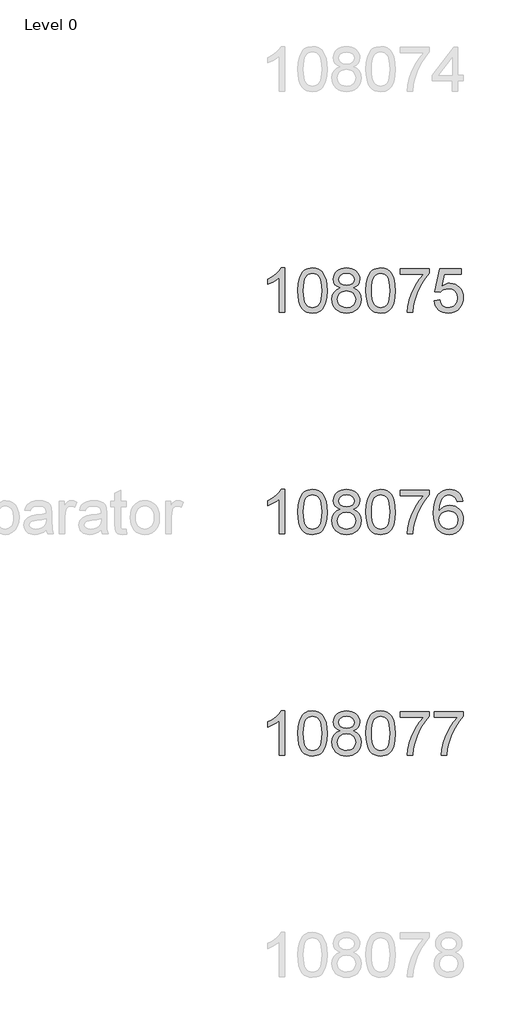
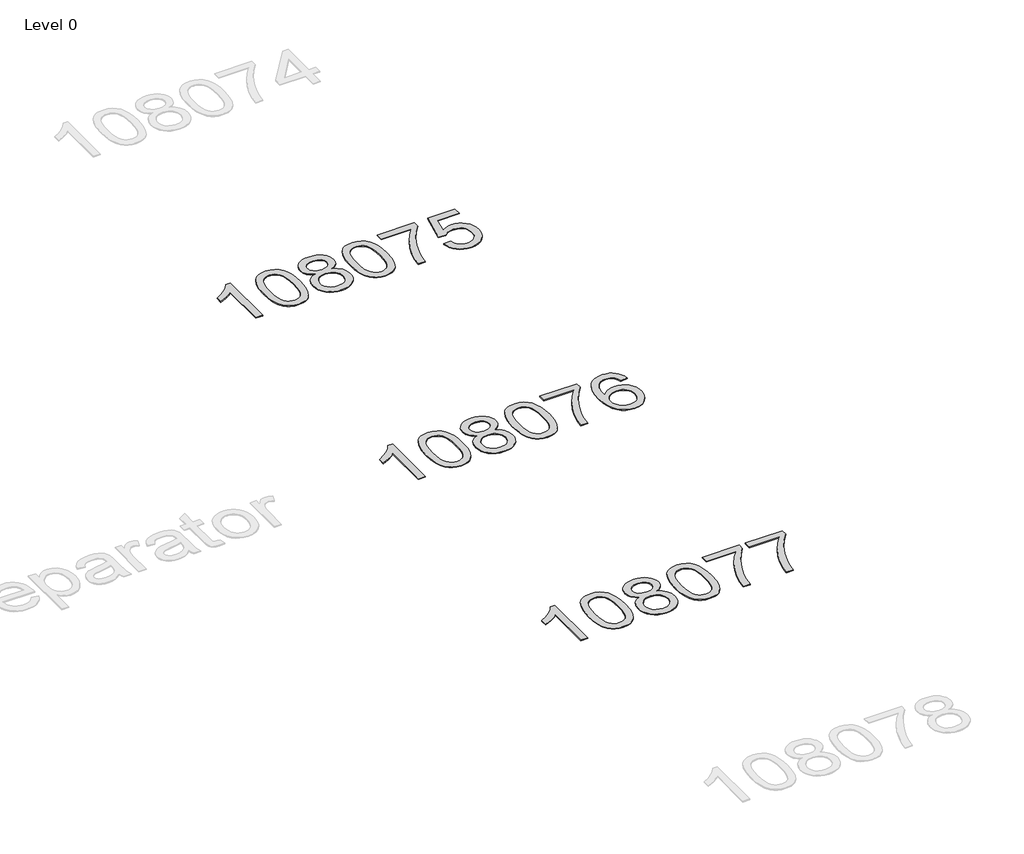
# One storey, part 3 of 8: 3 proxies.
"""IFC4 building model written with IfcOpenShell, lengths in millimetres."""

from ifc_helpers import new_model, si_unit, origin, origin_with_axes, place, context, project, spatial, polyline, outline, extrude, element, save

model = new_model("IFC4")

# Units and contexts
model_context = context("Model", 3, world=origin())
ifc_project = project(units=[si_unit("LENGTHUNIT", "METRE", prefix="MILLI")], contexts=[model_context])

# Site, building, storey
site = spatial("IfcSite", under=ifc_project)
building = spatial("IfcBuilding", under=site)
storey = spatial("IfcBuildingStorey", under=building, Name="Level 0", Elevation=0.0)

# Proxies
placement = place(None, origin())
element("IfcBuildingElementProxy", 1, Name="400mm Arial", ObjectType="400mm Arial", at=placement, inside=storey, context=model_context, shape_type="SweptSolid", body=[
    extrude(outline(polyline([(-3629.592891, 2149.0232018), (-3679.821046, 2149.0232018), (-3679.821046, 2462.1643561), (-3700.7903198, 2445.2049961), (-3727.4004508, 2428.2701616), (-3780.2773562, 2402.9108294), (-3780.2773562, 2450.3921323), (-3740.8281436, 2471.8519153), (-3706.6519062, 2497.3829258), (-3679.7106814, 2524.532617), (-3661.9665065, 2550.8484424), (-3629.592891, 2550.8484424), (-3629.592891, 2149.0232018)])), origin_with_axes(), (0.0, 0.0, 1.0), 5.0),
    extrude(outline(polyline([(-3510.3010227, 2346.6984606), (-3506.60994, 2411.0164961), (-3495.5366919, 2462.3115089), (-3477.1916431, 2501.3683141), (-3465.3335801, 2516.6016944), (-3451.6851581, 2528.9717264), (-3436.2003918, 2538.5427897), (-3418.8332959, 2545.3792634), (-3378.4521156, 2550.8484424), (-3347.5009771, 2547.6110809), (-3319.7872001, 2537.8989962), (-3296.6106344, 2522.0923331), (-3279.2711297, 2500.5712364), (-3266.1745307, 2473.519647), (-3255.726682, 2441.121506), (-3248.8840769, 2399.9800362), (-3246.6032085, 2346.6984606), (-3250.257503, 2282.7483071), (-3261.2203865, 2231.5759215), (-3279.4550707, 2192.4823282), (-3291.2855425, 2177.2029627), (-3304.9247675, 2164.7685512), (-3320.4279279, 2155.1331086), (-3337.8502061, 2148.2506496), (-3378.4521156, 2142.7446824), (-3406.1168416, 2145.1359154), (-3430.642308, 2152.3096143), (-3452.0285146, 2164.2657792), (-3470.2754616, 2181.0044099), (-3487.7866446, 2211.262704), (-3500.2946324, 2248.9644772), (-3507.7994251, 2294.1097294), (-3510.3010227, 2346.6984606)]), holes=[polyline([(-3460.0728676, 2346.7965624), (-3458.6013396, 2303.1320353), (-3454.1867557, 2267.7877726), (-3446.8291158, 2240.7637744), (-3436.5284199, 2222.0600406), (-3424.069483, 2209.3343892), (-3410.23712, 2200.2446383), (-3395.0313308, 2194.7907877), (-3378.4521156, 2192.9728375), (-3361.8729003, 2194.7969191), (-3346.6671112, 2200.2691637), (-3332.8347482, 2209.3895715), (-3320.3758113, 2222.1581425), (-3310.0751154, 2240.8925331), (-3302.7174755, 2267.9103999), (-3298.3028916, 2303.2117431), (-3296.8313636, 2346.7965624), (-3298.2538406, 2389.305327), (-3302.5212718, 2424.0272559), (-3309.633657, 2450.9623494), (-3319.5909964, 2470.1106072), (-3331.8414668, 2483.4585923), (-3345.8332454, 2492.9928673), (-3361.566332, 2498.7134323), (-3379.0407268, 2500.6202873), (-3395.5341029, 2498.9402929), (-3410.4823746, 2493.9003096), (-3423.885542, 2485.5003373), (-3435.743605, 2473.7403762), (-3446.3876574, 2452.8937298), (-3453.9905519, 2424.7875454), (-3458.5522887, 2389.4218229), (-3460.0728676, 2346.7965624)])]), origin_with_axes(), (0.0, 0.0, 1.0), 5.0),
    extrude(outline(polyline([(-3129.4695813, 2370.3410101), (-3156.3617551, 2383.5847619), (-3175.2341015, 2401.5374033), (-3186.3809259, 2423.8310522), (-3190.0965341, 2450.0978267), (-3188.0731831, 2470.5827224), (-3182.0031302, 2489.3630983), (-3171.8863753, 2506.4389542), (-3157.7229185, 2521.8102903), (-3140.1933414, 2534.5144818), (-3119.9782258, 2543.5889044), (-3097.0775716, 2549.0335579), (-3071.4913788, 2550.8484424), (-3045.7825587, 2548.9906383), (-3022.7102263, 2543.4172261), (-3002.2743814, 2534.1282057), (-2984.4750242, 2521.1235772), (-2970.05405, 2505.4518042), (-2959.7533542, 2488.1613504), (-2953.5729366, 2469.2522159), (-2951.5127975, 2448.7244006), (-2955.1793547, 2423.3037547), (-2966.1790263, 2401.3902505), (-2984.6344398, 2383.5479737), (-3010.6682223, 2370.3410101), (-2979.753872, 2354.4117197), (-2957.2517566, 2330.9531112), (-2943.5297582, 2301.0933559), (-2938.9557587, 2265.9606254), (-2941.2243643, 2240.9078615), (-2948.0301812, 2217.9397623), (-2959.3732094, 2197.0563277), (-2975.2534489, 2178.2575577), (-2994.8370338, 2162.7206748), (-3017.2900982, 2151.6229013), (-3042.6126422, 2144.9642371), (-3070.8046658, 2142.7446824), (-3098.9966893, 2144.9734342), (-3124.3192333, 2151.6596895), (-3146.7722978, 2162.8034482), (-3166.3558826, 2178.4047105), (-3182.2361221, 2197.3353048), (-3193.5791503, 2218.4670598), (-3200.3849672, 2241.7999753), (-3202.6535728, 2267.3340515), (-3197.8956324, 2303.8279454), (-3183.621811, 2333.8471162), (-3160.5678726, 2356.3614943), (-3129.4695813, 2370.3410101)]), holes=[polyline([(-3139.868379, 2448.6262987), (-3135.4170068, 2426.7005318), (-3122.0628904, 2409.1893488), (-3100.1984372, 2397.7114306), (-3070.2160546, 2393.8854578), (-3040.9326478, 2397.6869051), (-3019.3992883, 2409.0912469), (-3006.1555365, 2426.0138187), (-3001.7409525, 2446.3699558), (-3006.3026893, 2467.498645), (-3019.9878995, 2484.9730398), (-3041.8155645, 2496.7084755), (-3070.8046658, 2500.6202873), (-3099.977708, 2496.7943146), (-3121.7685848, 2485.3163963), (-3135.3434305, 2468.4919264), (-3139.868379, 2448.6262987)]), polyline([(-3152.4254178, 2269.099885), (-3150.3284904, 2249.8841822), (-3144.0377083, 2231.2816159), (-3132.4249, 2215.05802), (-3114.361894, 2202.9792278), (-3092.7304327, 2195.4744351), (-3070.4122583, 2192.9728375), (-3036.2237582, 2198.23355), (-3022.3300815, 2204.8094407), (-3010.5701204, 2214.0156876), (-2994.5304654, 2237.9157546), (-2989.1839138, 2267.5302552), (-2994.7021437, 2297.6475279), (-3011.2568335, 2322.0748924), (-3023.3356257, 2331.5171969), (-3037.4990825, 2338.2617001), (-3072.07999, 2343.6573027), (-3105.7902435, 2338.3352765), (-3119.5275703, 2331.6827438), (-3131.1863639, 2322.3691979), (-3147.1156543, 2298.4078173), (-3152.4254178, 2269.099885)])]), origin_with_axes(), (0.0, 0.0, 1.0), 5.0),
    extrude(outline(polyline([(-2895.006123, 2346.6984606), (-2891.3150403, 2411.0164961), (-2880.2417923, 2462.3115089), (-2861.8967434, 2501.3683141), (-2850.0386805, 2516.6016944), (-2836.3902584, 2528.9717264), (-2820.9054921, 2538.5427897), (-2803.5383963, 2545.3792634), (-2763.1572159, 2550.8484424), (-2732.2060774, 2547.6110809), (-2704.4923004, 2537.8989962), (-2681.3157347, 2522.0923331), (-2663.97623, 2500.5712364), (-2650.879631, 2473.519647), (-2640.4317823, 2441.121506), (-2633.5891772, 2399.9800362), (-2631.3083089, 2346.6984606), (-2634.9626033, 2282.7483071), (-2645.9254868, 2231.5759215), (-2664.160171, 2192.4823282), (-2675.9906429, 2177.2029627), (-2689.6298678, 2164.7685512), (-2705.1330282, 2155.1331086), (-2722.5553064, 2148.2506496), (-2763.1572159, 2142.7446824), (-2790.821942, 2145.1359154), (-2815.3474083, 2152.3096143), (-2836.733615, 2164.2657792), (-2854.9805619, 2181.0044099), (-2872.4917449, 2211.262704), (-2884.9997327, 2248.9644772), (-2892.5045254, 2294.1097294), (-2895.006123, 2346.6984606)]), holes=[polyline([(-2844.7779679, 2346.7965624), (-2843.3064399, 2303.1320353), (-2838.891856, 2267.7877726), (-2831.5342161, 2240.7637744), (-2821.2335202, 2222.0600406), (-2808.7745833, 2209.3343892), (-2794.9422203, 2200.2446383), (-2779.7364312, 2194.7907877), (-2763.1572159, 2192.9728375), (-2746.5780007, 2194.7969191), (-2731.3722115, 2200.2691637), (-2717.5398485, 2209.3895715), (-2705.0809116, 2222.1581425), (-2694.7802158, 2240.8925331), (-2687.4225759, 2267.9103999), (-2683.0079919, 2303.2117431), (-2681.5364639, 2346.7965624), (-2682.958941, 2389.305327), (-2687.2263721, 2424.0272559), (-2694.3387574, 2450.9623494), (-2704.2960967, 2470.1106072), (-2716.5465671, 2483.4585923), (-2730.5383457, 2492.9928673), (-2746.2714324, 2498.7134323), (-2763.7458271, 2500.6202873), (-2780.2392032, 2498.9402929), (-2795.187475, 2493.9003096), (-2808.5906423, 2485.5003373), (-2820.4487053, 2473.7403762), (-2831.0927577, 2452.8937298), (-2838.6956523, 2424.7875454), (-2843.257389, 2389.4218229), (-2844.7779679, 2346.7965624)])]), origin_with_axes(), (0.0, 0.0, 1.0), 5.0),
    extrude(outline(polyline([(-2587.3586732, 2494.341768), (-2587.3586732, 2544.569923), (-2323.660859, 2544.569923), (-2323.660859, 2503.9557508), (-2361.2461362, 2456.3886088), (-2398.4635314, 2395.8965461), (-2431.2908681, 2327.9977925), (-2455.7059698, 2258.210578), (-2467.6743974, 2205.9958601), (-2474.3453243, 2149.0232018), (-2524.5734793, 2149.0232018), (-2519.1410885, 2200.7964613), (-2504.6097497, 2262.3308563), (-2481.3718704, 2327.5563341), (-2449.8198579, 2390.4028416), (-2412.9826075, 2447.2160844), (-2373.8890141, 2494.341768), (-2587.3586732, 2494.341768)])), origin_with_axes(), (0.0, 0.0, 1.0), 5.0),
    extrude(outline(polyline([(-2022.2919286, 2444.1136129), (-2072.5200837, 2437.8350935), (-2080.6134875, 2462.7284418), (-2091.5518455, 2479.72459), (-2114.3360038, 2495.396363), (-2141.8781025, 2500.6202873), (-2165.2263464, 2497.5791295), (-2187.2011643, 2488.455656), (-2206.0735106, 2469.2399532), (-2221.4877662, 2442.7892377), (-2231.8988267, 2405.3756388), (-2235.7615876, 2353.2712855), (-2215.613917, 2376.778945), (-2191.4685954, 2393.3458976), (-2164.6745234, 2403.1683468), (-2136.5806017, 2406.4424966), (-2112.4475429, 2404.2045478), (-2090.1784194, 2397.4907014), (-2069.7732314, 2386.3009573), (-2051.2319789, 2370.6353157), (-2035.8238546, 2351.4257442), (-2024.8180516, 2329.6042105), (-2018.2145698, 2305.1707147), (-2016.0134092, 2278.1252567), (-2020.158213, 2242.1586603), (-2032.5926244, 2208.8162888), (-2052.2865739, 2180.5384261), (-2078.2099918, 2159.7653561), (-2109.1856558, 2146.9998508), (-2144.0363435, 2142.7446824), (-2173.9788722, 2145.5651111), (-2201.0212646, 2154.026397), (-2225.1635205, 2168.1285401), (-2246.40564, 2187.8715405), (-2263.723685, 2214.089264), (-2276.093717, 2247.6155765), (-2283.5157363, 2288.450478), (-2285.9897427, 2336.5939684), (-2283.2428905, 2390.5683885), (-2275.0023338, 2436.6333457), (-2261.2680726, 2474.7888399), (-2242.040107, 2505.0348713), (-2221.199592, 2525.0783087), (-2197.0358763, 2539.3950496), (-2169.5489599, 2547.9850942), (-2138.7388428, 2550.8484424), (-2115.6051967, 2549.0764775), (-2094.6665798, 2543.7605826), (-2075.9229921, 2534.9007579), (-2059.3744337, 2522.4970033), (-2045.4684943, 2506.9662518), (-2034.6527636, 2488.7254362), (-2026.9272417, 2467.7745565), (-2022.2919286, 2444.1136129)]), holes=[polyline([(-2235.7615876, 2278.9100716), (-2232.8553199, 2256.6532109), (-2224.1365166, 2235.4018943), (-2210.5984592, 2217.1304219), (-2193.234429, 2203.8130936), (-2172.277418, 2195.6829015), (-2147.9604181, 2192.9728375), (-2114.8142504, 2198.5891693), (-2100.8991139, 2205.609584), (-2088.7559424, 2215.4381647), (-2078.905902, 2227.6763724), (-2071.8701588, 2241.9256683), (-2066.2415643, 2276.457525), (-2071.7965824, 2309.6036927), (-2078.7403551, 2323.2245236), (-2088.4616368, 2334.8771858), (-2100.6415965, 2344.2121914), (-2114.9614032, 2350.8800526), (-2150.0205573, 2356.2143415), (-2183.1176741, 2350.8800526), (-2210.7946629, 2334.8771858), (-2221.7176925, 2323.3778078), (-2229.5198565, 2310.2168294), (-2234.2011548, 2295.3942507), (-2235.7615876, 2278.9100716)])]), origin_with_axes(), (0.0, 0.0, 1.0), 5.0),
])
element("IfcBuildingElementProxy", 2, Name="400mm Arial", ObjectType="400mm Arial", at=placement, inside=storey, context=model_context, shape_type="SweptSolid", body=[
    extrude(outline(polyline([(-3629.592891, 149.0232018), (-3679.821046, 149.0232018), (-3679.821046, 462.1643561), (-3700.7903198, 445.2049961), (-3727.4004508, 428.2701616), (-3780.2773562, 402.9108294), (-3780.2773562, 450.3921323), (-3740.8281436, 471.8519153), (-3706.6519062, 497.3829258), (-3679.7106814, 524.532617), (-3661.9665065, 550.8484424), (-3629.592891, 550.8484424), (-3629.592891, 149.0232018)])), origin_with_axes(), (0.0, 0.0, 1.0), 5.0),
    extrude(outline(polyline([(-3510.3010227, 346.6984606), (-3506.60994, 411.0164961), (-3495.5366919, 462.3115089), (-3477.1916431, 501.3683141), (-3465.3335801, 516.6016944), (-3451.6851581, 528.9717264), (-3436.2003918, 538.5427897), (-3418.8332959, 545.3792634), (-3378.4521156, 550.8484424), (-3347.5009771, 547.6110809), (-3319.7872001, 537.8989962), (-3296.6106344, 522.0923331), (-3279.2711297, 500.5712364), (-3266.1745307, 473.519647), (-3255.726682, 441.121506), (-3248.8840769, 399.9800362), (-3246.6032085, 346.6984606), (-3250.257503, 282.7483071), (-3261.2203865, 231.5759215), (-3279.4550707, 192.4823282), (-3291.2855425, 177.2029627), (-3304.9247675, 164.7685512), (-3320.4279279, 155.1331086), (-3337.8502061, 148.2506496), (-3378.4521156, 142.7446824), (-3406.1168416, 145.1359154), (-3430.642308, 152.3096143), (-3452.0285146, 164.2657792), (-3470.2754616, 181.0044099), (-3487.7866446, 211.262704), (-3500.2946324, 248.9644772), (-3507.7994251, 294.1097294), (-3510.3010227, 346.6984606)]), holes=[polyline([(-3460.0728676, 346.7965624), (-3458.6013396, 303.1320353), (-3454.1867557, 267.7877726), (-3446.8291158, 240.7637744), (-3436.5284199, 222.0600406), (-3424.069483, 209.3343892), (-3410.23712, 200.2446383), (-3395.0313308, 194.7907877), (-3378.4521156, 192.9728375), (-3361.8729003, 194.7969191), (-3346.6671112, 200.2691637), (-3332.8347482, 209.3895715), (-3320.3758113, 222.1581425), (-3310.0751154, 240.8925331), (-3302.7174755, 267.9103999), (-3298.3028916, 303.2117431), (-3296.8313636, 346.7965624), (-3298.2538406, 389.305327), (-3302.5212718, 424.0272559), (-3309.633657, 450.9623494), (-3319.5909964, 470.1106072), (-3331.8414668, 483.4585923), (-3345.8332454, 492.9928673), (-3361.566332, 498.7134323), (-3379.0407268, 500.6202873), (-3395.5341029, 498.9402929), (-3410.4823746, 493.9003096), (-3423.885542, 485.5003373), (-3435.743605, 473.7403762), (-3446.3876574, 452.8937298), (-3453.9905519, 424.7875454), (-3458.5522887, 389.4218229), (-3460.0728676, 346.7965624)])]), origin_with_axes(), (0.0, 0.0, 1.0), 5.0),
    extrude(outline(polyline([(-3129.4695813, 370.3410101), (-3156.3617551, 383.5847619), (-3175.2341015, 401.5374033), (-3186.3809259, 423.8310522), (-3190.0965341, 450.0978267), (-3188.0731831, 470.5827224), (-3182.0031302, 489.3630983), (-3171.8863753, 506.4389542), (-3157.7229185, 521.8102903), (-3140.1933414, 534.5144818), (-3119.9782258, 543.5889044), (-3097.0775716, 549.0335579), (-3071.4913788, 550.8484424), (-3045.7825587, 548.9906383), (-3022.7102263, 543.4172261), (-3002.2743814, 534.1282057), (-2984.4750242, 521.1235772), (-2970.05405, 505.4518042), (-2959.7533542, 488.1613504), (-2953.5729366, 469.2522159), (-2951.5127975, 448.7244006), (-2955.1793547, 423.3037547), (-2966.1790263, 401.3902505), (-2984.6344398, 383.5479737), (-3010.6682223, 370.3410101), (-2979.753872, 354.4117197), (-2957.2517566, 330.9531112), (-2943.5297582, 301.0933559), (-2938.9557587, 265.9606254), (-2941.2243643, 240.9078615), (-2948.0301812, 217.9397623), (-2959.3732094, 197.0563277), (-2975.2534489, 178.2575577), (-2994.8370338, 162.7206748), (-3017.2900982, 151.6229013), (-3042.6126422, 144.9642371), (-3070.8046658, 142.7446824), (-3098.9966893, 144.9734342), (-3124.3192333, 151.6596895), (-3146.7722978, 162.8034482), (-3166.3558826, 178.4047105), (-3182.2361221, 197.3353048), (-3193.5791503, 218.4670598), (-3200.3849672, 241.7999753), (-3202.6535728, 267.3340515), (-3197.8956324, 303.8279454), (-3183.621811, 333.8471162), (-3160.5678726, 356.3614943), (-3129.4695813, 370.3410101)]), holes=[polyline([(-3139.868379, 448.6262987), (-3135.4170068, 426.7005318), (-3122.0628904, 409.1893488), (-3100.1984372, 397.7114306), (-3070.2160546, 393.8854578), (-3040.9326478, 397.6869051), (-3019.3992883, 409.0912469), (-3006.1555365, 426.0138187), (-3001.7409525, 446.3699558), (-3006.3026893, 467.498645), (-3019.9878995, 484.9730398), (-3041.8155645, 496.7084755), (-3070.8046658, 500.6202873), (-3099.977708, 496.7943146), (-3121.7685848, 485.3163963), (-3135.3434305, 468.4919264), (-3139.868379, 448.6262987)]), polyline([(-3152.4254178, 269.099885), (-3150.3284904, 249.8841822), (-3144.0377083, 231.2816159), (-3132.4249, 215.05802), (-3114.361894, 202.9792278), (-3092.7304327, 195.4744351), (-3070.4122583, 192.9728375), (-3036.2237582, 198.23355), (-3022.3300815, 204.8094407), (-3010.5701204, 214.0156876), (-2994.5304654, 237.9157546), (-2989.1839138, 267.5302552), (-2994.7021437, 297.6475279), (-3011.2568335, 322.0748924), (-3023.3356257, 331.5171969), (-3037.4990825, 338.2617001), (-3072.07999, 343.6573027), (-3105.7902435, 338.3352765), (-3119.5275703, 331.6827438), (-3131.1863639, 322.3691979), (-3147.1156543, 298.4078173), (-3152.4254178, 269.099885)])]), origin_with_axes(), (0.0, 0.0, 1.0), 5.0),
    extrude(outline(polyline([(-2895.006123, 346.6984606), (-2891.3150403, 411.0164961), (-2880.2417923, 462.3115089), (-2861.8967434, 501.3683141), (-2850.0386805, 516.6016944), (-2836.3902584, 528.9717264), (-2820.9054921, 538.5427897), (-2803.5383963, 545.3792634), (-2763.1572159, 550.8484424), (-2732.2060774, 547.6110809), (-2704.4923004, 537.8989962), (-2681.3157347, 522.0923331), (-2663.97623, 500.5712364), (-2650.879631, 473.519647), (-2640.4317823, 441.121506), (-2633.5891772, 399.9800362), (-2631.3083089, 346.6984606), (-2634.9626033, 282.7483071), (-2645.9254868, 231.5759215), (-2664.160171, 192.4823282), (-2675.9906429, 177.2029627), (-2689.6298678, 164.7685512), (-2705.1330282, 155.1331086), (-2722.5553064, 148.2506496), (-2763.1572159, 142.7446824), (-2790.821942, 145.1359154), (-2815.3474083, 152.3096143), (-2836.733615, 164.2657792), (-2854.9805619, 181.0044099), (-2872.4917449, 211.262704), (-2884.9997327, 248.9644772), (-2892.5045254, 294.1097294), (-2895.006123, 346.6984606)]), holes=[polyline([(-2844.7779679, 346.7965624), (-2843.3064399, 303.1320353), (-2838.891856, 267.7877726), (-2831.5342161, 240.7637744), (-2821.2335202, 222.0600406), (-2808.7745833, 209.3343892), (-2794.9422203, 200.2446383), (-2779.7364312, 194.7907877), (-2763.1572159, 192.9728375), (-2746.5780007, 194.7969191), (-2731.3722115, 200.2691637), (-2717.5398485, 209.3895715), (-2705.0809116, 222.1581425), (-2694.7802158, 240.8925331), (-2687.4225759, 267.9103999), (-2683.0079919, 303.2117431), (-2681.5364639, 346.7965624), (-2682.958941, 389.305327), (-2687.2263721, 424.0272559), (-2694.3387574, 450.9623494), (-2704.2960967, 470.1106072), (-2716.5465671, 483.4585923), (-2730.5383457, 492.9928673), (-2746.2714324, 498.7134323), (-2763.7458271, 500.6202873), (-2780.2392032, 498.9402929), (-2795.187475, 493.9003096), (-2808.5906423, 485.5003373), (-2820.4487053, 473.7403762), (-2831.0927577, 452.8937298), (-2838.6956523, 424.7875454), (-2843.257389, 389.4218229), (-2844.7779679, 346.7965624)])]), origin_with_axes(), (0.0, 0.0, 1.0), 5.0),
    extrude(outline(polyline([(-2587.3586732, 494.341768), (-2587.3586732, 544.569923), (-2323.660859, 544.569923), (-2323.660859, 503.9557508), (-2361.2461362, 456.3886088), (-2398.4635314, 395.8965461), (-2431.2908681, 327.9977925), (-2455.7059698, 258.210578), (-2467.6743974, 205.9958601), (-2474.3453243, 149.0232018), (-2524.5734793, 149.0232018), (-2519.1410885, 200.7964613), (-2504.6097497, 262.3308563), (-2481.3718704, 327.5563341), (-2449.8198579, 390.4028416), (-2412.9826075, 447.2160844), (-2373.8890141, 494.341768), (-2587.3586732, 494.341768)])), origin_with_axes(), (0.0, 0.0, 1.0), 5.0),
    extrude(outline(polyline([(-2279.7112233, 494.341768), (-2279.7112233, 544.569923), (-2016.0134092, 544.569923), (-2016.0134092, 503.9557508), (-2053.5986864, 456.3886088), (-2090.8160815, 395.8965461), (-2123.6434182, 327.9977925), (-2148.05852, 258.210578), (-2160.0269476, 205.9958601), (-2166.6978744, 149.0232018), (-2216.9260295, 149.0232018), (-2211.4936387, 200.7964613), (-2196.9622999, 262.3308563), (-2173.7244205, 327.5563341), (-2142.1724081, 390.4028416), (-2105.3351576, 447.2160844), (-2066.2415643, 494.341768), (-2279.7112233, 494.341768)])), origin_with_axes(), (0.0, 0.0, 1.0), 5.0),
])
element("IfcBuildingElementProxy", 3, Name="400mm Arial", ObjectType="400mm Arial", at=placement, inside=storey, context=model_context, shape_type="SweptSolid", body=[
    extrude(outline(polyline([(-3629.592891, 4149.0232018), (-3679.821046, 4149.0232018), (-3679.821046, 4462.1643561), (-3700.7903198, 4445.2049961), (-3727.4004508, 4428.2701616), (-3780.2773562, 4402.9108294), (-3780.2773562, 4450.3921323), (-3740.8281436, 4471.8519153), (-3706.6519062, 4497.3829258), (-3679.7106814, 4524.532617), (-3661.9665065, 4550.8484424), (-3629.592891, 4550.8484424), (-3629.592891, 4149.0232018)])), origin_with_axes(), (0.0, 0.0, 1.0), 5.0),
    extrude(outline(polyline([(-3510.3010227, 4346.6984606), (-3506.60994, 4411.0164961), (-3495.5366919, 4462.3115089), (-3477.1916431, 4501.3683141), (-3465.3335801, 4516.6016944), (-3451.6851581, 4528.9717264), (-3436.2003918, 4538.5427897), (-3418.8332959, 4545.3792634), (-3378.4521156, 4550.8484424), (-3347.5009771, 4547.6110809), (-3319.7872001, 4537.8989962), (-3296.6106344, 4522.0923331), (-3279.2711297, 4500.5712364), (-3266.1745307, 4473.519647), (-3255.726682, 4441.121506), (-3248.8840769, 4399.9800362), (-3246.6032085, 4346.6984606), (-3250.257503, 4282.7483071), (-3261.2203865, 4231.5759215), (-3279.4550707, 4192.4823282), (-3291.2855425, 4177.2029627), (-3304.9247675, 4164.7685512), (-3320.4279279, 4155.1331086), (-3337.8502061, 4148.2506496), (-3378.4521156, 4142.7446824), (-3406.1168416, 4145.1359154), (-3430.642308, 4152.3096143), (-3452.0285146, 4164.2657792), (-3470.2754616, 4181.0044099), (-3487.7866446, 4211.262704), (-3500.2946324, 4248.9644772), (-3507.7994251, 4294.1097294), (-3510.3010227, 4346.6984606)]), holes=[polyline([(-3460.0728676, 4346.7965624), (-3458.6013396, 4303.1320353), (-3454.1867557, 4267.7877726), (-3446.8291158, 4240.7637744), (-3436.5284199, 4222.0600406), (-3424.069483, 4209.3343892), (-3410.23712, 4200.2446383), (-3395.0313308, 4194.7907877), (-3378.4521156, 4192.9728375), (-3361.8729003, 4194.7969191), (-3346.6671112, 4200.2691637), (-3332.8347482, 4209.3895715), (-3320.3758113, 4222.1581425), (-3310.0751154, 4240.8925331), (-3302.7174755, 4267.9103999), (-3298.3028916, 4303.2117431), (-3296.8313636, 4346.7965624), (-3298.2538406, 4389.305327), (-3302.5212718, 4424.0272559), (-3309.633657, 4450.9623494), (-3319.5909964, 4470.1106072), (-3331.8414668, 4483.4585923), (-3345.8332454, 4492.9928673), (-3361.566332, 4498.7134323), (-3379.0407268, 4500.6202873), (-3395.5341029, 4498.9402929), (-3410.4823746, 4493.9003096), (-3423.885542, 4485.5003373), (-3435.743605, 4473.7403762), (-3446.3876574, 4452.8937298), (-3453.9905519, 4424.7875454), (-3458.5522887, 4389.4218229), (-3460.0728676, 4346.7965624)])]), origin_with_axes(), (0.0, 0.0, 1.0), 5.0),
    extrude(outline(polyline([(-3129.4695813, 4370.3410101), (-3156.3617551, 4383.5847619), (-3175.2341015, 4401.5374033), (-3186.3809259, 4423.8310522), (-3190.0965341, 4450.0978267), (-3188.0731831, 4470.5827224), (-3182.0031302, 4489.3630983), (-3171.8863753, 4506.4389542), (-3157.7229185, 4521.8102903), (-3140.1933414, 4534.5144818), (-3119.9782258, 4543.5889044), (-3097.0775716, 4549.0335579), (-3071.4913788, 4550.8484424), (-3045.7825587, 4548.9906383), (-3022.7102263, 4543.4172261), (-3002.2743814, 4534.1282057), (-2984.4750242, 4521.1235772), (-2970.05405, 4505.4518042), (-2959.7533542, 4488.1613504), (-2953.5729366, 4469.2522159), (-2951.5127975, 4448.7244006), (-2955.1793547, 4423.3037547), (-2966.1790263, 4401.3902505), (-2984.6344398, 4383.5479737), (-3010.6682223, 4370.3410101), (-2979.753872, 4354.4117197), (-2957.2517566, 4330.9531112), (-2943.5297582, 4301.0933559), (-2938.9557587, 4265.9606254), (-2941.2243643, 4240.9078615), (-2948.0301812, 4217.9397623), (-2959.3732094, 4197.0563277), (-2975.2534489, 4178.2575577), (-2994.8370338, 4162.7206748), (-3017.2900982, 4151.6229013), (-3042.6126422, 4144.9642371), (-3070.8046658, 4142.7446824), (-3098.9966893, 4144.9734342), (-3124.3192333, 4151.6596895), (-3146.7722978, 4162.8034482), (-3166.3558826, 4178.4047105), (-3182.2361221, 4197.3353048), (-3193.5791503, 4218.4670598), (-3200.3849672, 4241.7999753), (-3202.6535728, 4267.3340515), (-3197.8956324, 4303.8279454), (-3183.621811, 4333.8471162), (-3160.5678726, 4356.3614943), (-3129.4695813, 4370.3410101)]), holes=[polyline([(-3139.868379, 4448.6262987), (-3135.4170068, 4426.7005318), (-3122.0628904, 4409.1893488), (-3100.1984372, 4397.7114306), (-3070.2160546, 4393.8854578), (-3040.9326478, 4397.6869051), (-3019.3992883, 4409.0912469), (-3006.1555365, 4426.0138187), (-3001.7409525, 4446.3699558), (-3006.3026893, 4467.498645), (-3019.9878995, 4484.9730398), (-3041.8155645, 4496.7084755), (-3070.8046658, 4500.6202873), (-3099.977708, 4496.7943146), (-3121.7685848, 4485.3163963), (-3135.3434305, 4468.4919264), (-3139.868379, 4448.6262987)]), polyline([(-3152.4254178, 4269.099885), (-3150.3284904, 4249.8841822), (-3144.0377083, 4231.2816159), (-3132.4249, 4215.05802), (-3114.361894, 4202.9792278), (-3092.7304327, 4195.4744351), (-3070.4122583, 4192.9728375), (-3036.2237582, 4198.23355), (-3022.3300815, 4204.8094407), (-3010.5701204, 4214.0156876), (-2994.5304654, 4237.9157546), (-2989.1839138, 4267.5302552), (-2994.7021437, 4297.6475279), (-3011.2568335, 4322.0748924), (-3023.3356257, 4331.5171969), (-3037.4990825, 4338.2617001), (-3072.07999, 4343.6573027), (-3105.7902435, 4338.3352765), (-3119.5275703, 4331.6827438), (-3131.1863639, 4322.3691979), (-3147.1156543, 4298.4078173), (-3152.4254178, 4269.099885)])]), origin_with_axes(), (0.0, 0.0, 1.0), 5.0),
    extrude(outline(polyline([(-2895.006123, 4346.6984606), (-2891.3150403, 4411.0164961), (-2880.2417923, 4462.3115089), (-2861.8967434, 4501.3683141), (-2850.0386805, 4516.6016944), (-2836.3902584, 4528.9717264), (-2820.9054921, 4538.5427897), (-2803.5383963, 4545.3792634), (-2763.1572159, 4550.8484424), (-2732.2060774, 4547.6110809), (-2704.4923004, 4537.8989962), (-2681.3157347, 4522.0923331), (-2663.97623, 4500.5712364), (-2650.879631, 4473.519647), (-2640.4317823, 4441.121506), (-2633.5891772, 4399.9800362), (-2631.3083089, 4346.6984606), (-2634.9626033, 4282.7483071), (-2645.9254868, 4231.5759215), (-2664.160171, 4192.4823282), (-2675.9906429, 4177.2029627), (-2689.6298678, 4164.7685512), (-2705.1330282, 4155.1331086), (-2722.5553064, 4148.2506496), (-2763.1572159, 4142.7446824), (-2790.821942, 4145.1359154), (-2815.3474083, 4152.3096143), (-2836.733615, 4164.2657792), (-2854.9805619, 4181.0044099), (-2872.4917449, 4211.262704), (-2884.9997327, 4248.9644772), (-2892.5045254, 4294.1097294), (-2895.006123, 4346.6984606)]), holes=[polyline([(-2844.7779679, 4346.7965624), (-2843.3064399, 4303.1320353), (-2838.891856, 4267.7877726), (-2831.5342161, 4240.7637744), (-2821.2335202, 4222.0600406), (-2808.7745833, 4209.3343892), (-2794.9422203, 4200.2446383), (-2779.7364312, 4194.7907877), (-2763.1572159, 4192.9728375), (-2746.5780007, 4194.7969191), (-2731.3722115, 4200.2691637), (-2717.5398485, 4209.3895715), (-2705.0809116, 4222.1581425), (-2694.7802158, 4240.8925331), (-2687.4225759, 4267.9103999), (-2683.0079919, 4303.2117431), (-2681.5364639, 4346.7965624), (-2682.958941, 4389.305327), (-2687.2263721, 4424.0272559), (-2694.3387574, 4450.9623494), (-2704.2960967, 4470.1106072), (-2716.5465671, 4483.4585923), (-2730.5383457, 4492.9928673), (-2746.2714324, 4498.7134323), (-2763.7458271, 4500.6202873), (-2780.2392032, 4498.9402929), (-2795.187475, 4493.9003096), (-2808.5906423, 4485.5003373), (-2820.4487053, 4473.7403762), (-2831.0927577, 4452.8937298), (-2838.6956523, 4424.7875454), (-2843.257389, 4389.4218229), (-2844.7779679, 4346.7965624)])]), origin_with_axes(), (0.0, 0.0, 1.0), 5.0),
    extrude(outline(polyline([(-2587.3586732, 4494.341768), (-2587.3586732, 4544.569923), (-2323.660859, 4544.569923), (-2323.660859, 4503.9557508), (-2361.2461362, 4456.3886088), (-2398.4635314, 4395.8965461), (-2431.2908681, 4327.9977925), (-2455.7059698, 4258.210578), (-2467.6743974, 4205.9958601), (-2474.3453243, 4149.0232018), (-2524.5734793, 4149.0232018), (-2519.1410885, 4200.7964613), (-2504.6097497, 4262.3308563), (-2481.3718704, 4327.5563341), (-2449.8198579, 4390.4028416), (-2412.9826075, 4447.2160844), (-2373.8890141, 4494.341768), (-2587.3586732, 4494.341768)])), origin_with_axes(), (0.0, 0.0, 1.0), 5.0),
    extrude(outline(polyline([(-2279.7112233, 4255.7580314), (-2229.4830683, 4262.0365507), (-2220.2614929, 4231.8824899), (-2204.172787, 4210.2878168), (-2181.2905269, 4197.3015823), (-2151.688289, 4192.9728375), (-2132.5584253, 4194.478088), (-2115.6849044, 4198.9938395), (-2101.0677265, 4206.520092), (-2088.7068914, 4217.0568455), (-2078.8783108, 4230.0829338), (-2071.8578961, 4245.0771908), (-2066.2415643, 4280.9702108), (-2071.5022768, 4314.7663034), (-2078.0781675, 4328.6845055), (-2087.2844144, 4340.6161449), (-2099.1516744, 4350.1872082), (-2113.7106044, 4357.0236819), (-2150.9034741, 4362.4928609), (-2175.2695249, 4360.3100944), (-2195.0002626, 4353.7617949), (-2210.7578747, 4343.7308791), (-2223.2045489, 4331.100264), (-2273.432704, 4337.3787834), (-2229.4830683, 4544.569923), (-2034.8489673, 4544.569923), (-2034.8489673, 4494.341768), (-2188.868896, 4494.341768), (-2210.3532045, 4383.6828638), (-2192.6274237, 4396.3870554), (-2174.4724472, 4405.4614779), (-2155.8882751, 4410.9061315), (-2136.8749073, 4412.721016), (-2112.4138203, 4410.4708044), (-2089.9454275, 4403.7201698), (-2069.4697288, 4392.4691121), (-2050.9867242, 4376.7176314), (-2035.6858989, 4357.4283521), (-2024.7567379, 4335.5638988), (-2018.1992414, 4311.1242716), (-2016.0134092, 4284.1094705), (-2017.9815779, 4258.0879507), (-2023.8860839, 4233.8813154), (-2033.7269273, 4211.4895646), (-2047.504108, 4190.9126983), (-2068.3752798, 4169.8391914), (-2092.7290679, 4154.7866864), (-2120.5654722, 4145.7551834), (-2151.8844927, 4142.7446824), (-2177.804845, 4144.6791286), (-2201.2174683, 4150.4824671), (-2222.1223627, 4160.1546979), (-2240.5195281, 4173.695821), (-2255.8264848, 4190.4313861), (-2267.4607529, 4209.6869428), (-2275.4223324, 4231.4624913), (-2279.7112233, 4255.7580314)])), origin_with_axes(), (0.0, 0.0, 1.0), 5.0),
])

save(model, "model.ifc")
